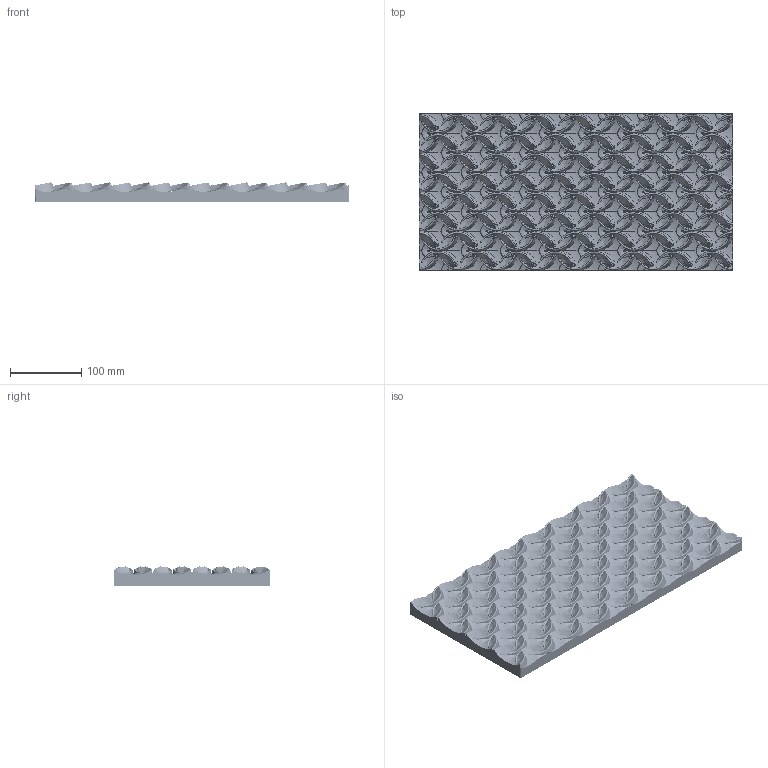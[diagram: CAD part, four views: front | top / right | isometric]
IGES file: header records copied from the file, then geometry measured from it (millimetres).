
Start section: SolidWorks IGES file using analytic representation for surfaces
Global section: file name: C:\Users\KAFLARNIA\Desktop\Modele CeramicWall\MODELE STRONA\Orient_44x22_IGES.IGS; native system: SolidWorks 2020; preprocessor: SolidWorks 2020; author: KAFLARNIA; date: 220601.151559; units: millimetre
Bounding box: 440 x 220 x 26.71 mm (x, y, z)
Surface area: 273084.1 mm2 (no closed solid volume)
Topology: 0 solids, 0 shells, 1914 faces, 43103 edges, 47888 vertices
Faces by surface type: bspline 1914
